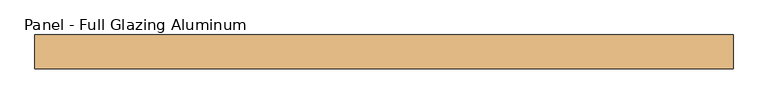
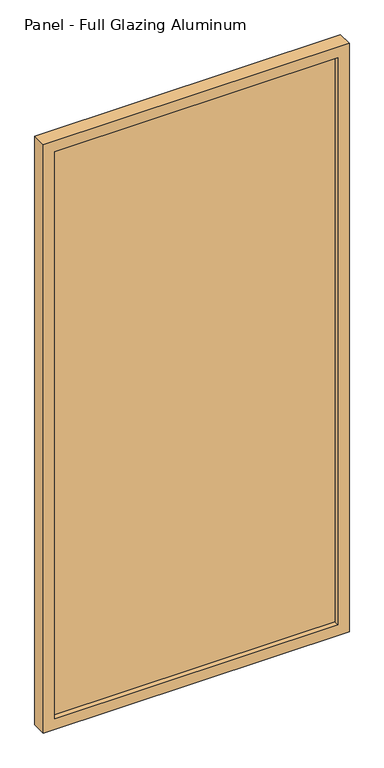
"""IFC4 building model written with IfcOpenShell, lengths in millimetres: door geometry, BP_DR_SP_Panel-Single-Glass : Panel - Full Glazing Aluminum."""

from ifc_helpers import new_model, si_unit, frame, origin, place, context, project, spatial, polyline, outline, extrude, source, transform, mapped, element, save


def panel_full_glazing_aluminum_5881cc99(model_context):
    return source(origin(), model_context, "Body", "SweptSolid", [
        extrude(outline(polyline([(486.8333333, 6.35), (486.8333333, -6.35), (-486.8333333, -6.35), (-486.8333333, 6.35), (486.8333333, 6.35)])), frame((0.0, 0.0, 38.1), z_axis=(0.0, 0.0, 1.0), x_axis=(1.0, 0.0, 0.0)), (0.0, 0.0, 1.0), 2057.4),
        extrude(outline(polyline([(2133.6, 524.9333333), (2133.6, -524.9333333), (0.0, -524.9333333), (0.0, 524.9333333), (2133.6, 524.9333333)]), holes=[polyline([(2095.5, 486.8333333), (38.1, 486.8333333), (38.1, -486.8333333), (2095.5, -486.8333333), (2095.5, 486.8333333)])]), frame((0.0, -25.4, 0.0), z_axis=(0.0, 1.0, 0.0), x_axis=(0.0, 0.0, 1.0)), (0.0, 0.0, 1.0), 50.8),
    ])


if __name__ == "__main__":
    model = new_model("IFC4")
    model_context = context("Model", 3, world=origin())
    ifc_project = project(units=[si_unit("LENGTHUNIT", "METRE", prefix="MILLI")], contexts=[model_context])
    site = spatial("IfcSite", under=ifc_project)
    building = spatial("IfcBuilding", under=site)
    placement = place(None, origin())
    panel_full_glazing_aluminum_shape = panel_full_glazing_aluminum_5881cc99(model_context)
    element("IfcDoor", 1, ObjectType="BP_DR_SP_Panel-Single-Glass : Panel - Full Glazing Aluminum", at=placement, inside=building, context=model_context, shape_type="MappedRepresentation", body=[
        mapped(panel_full_glazing_aluminum_shape, transform((0.0, 0.0, 0.0), x_axis=(1.0, 0.0, 0.0), y_axis=(0.0, 1.0, 0.0), z_axis=(0.0, 0.0, 1.0))),
    ])
    save(model, "model.ifc")
